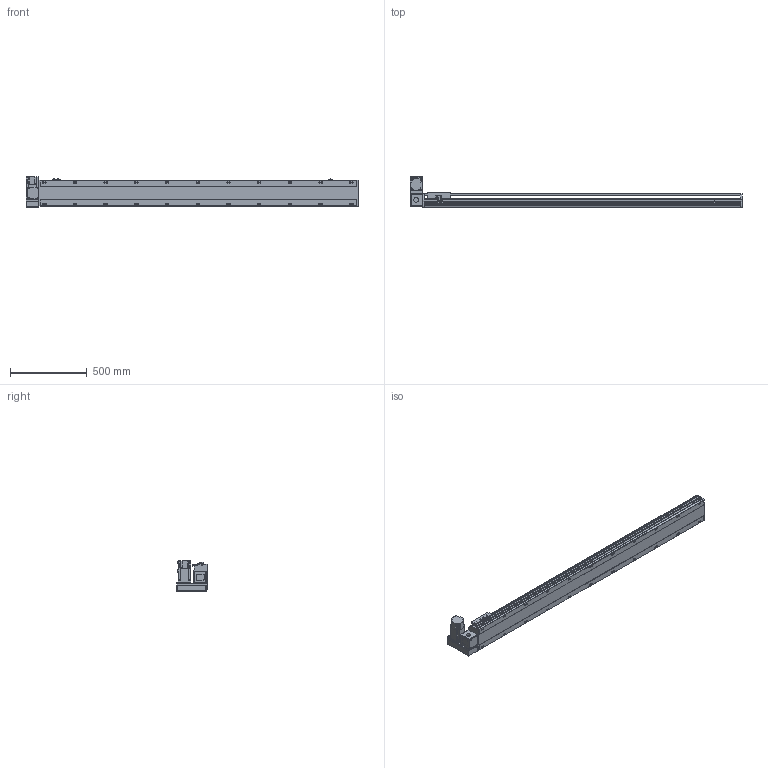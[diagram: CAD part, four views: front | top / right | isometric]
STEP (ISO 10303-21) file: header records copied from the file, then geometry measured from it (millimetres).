
FILE_DESCRIPTION( ( 'STEP AP214' ), '1' );
FILE_NAME( 'x:/temp/worker_4/temp/exporttempdir_2248_408_AvBjH/format_0/PBS170-P40-S1800-LU-T75-C1-N(0).stp', '2022-06-07T08:16:29', ( 'License CC BY-ND 4.0' ), ( 'CADENAS' ), ' ', 'PARTsolutions', ' ' );
FILE_SCHEMA( ( 'AUTOMOTIVE_DESIGN { 1 0 10303 214 1 1 1 1 }' ) );
Length unit declared in the file: millimetre
Products named in the file (7): PBS170-P40-S1800-LU-T75-C1-N(0); _PBS170-S1800()_body; _PBS170T-LU_motors; _T75-p1; _PBS170_sliser; _PBS170_plant; _PBS170_sensor
Assembly tree (8 placements, depth 2):
  PBS170-P40-S1800-LU-T75-C1-N(0)
    _PBS170-S1800()_body
    _PBS170T-LU_motors
    _T75-p1
    _PBS170_sliser
    _PBS170_plant
    _PBS170_sensor  x3
Bounding box: 2163 x 206 x 197.3 mm (x, y, z)
Volume: 16692905.6 mm3; surface area: 2127027.5 mm2
Topology: 8 solids, 8 shells, 1130 faces, 2995 edges, 1952 vertices
Faces by surface type: plane 705, cylinder 363, cone 52, sphere 8, torus 2
Full cylindrical faces by diameter (mm): 3.242 x4, 4 x2, 4.4 x4, 4.5 x6, 4.917 x4, 6 x9, 6.647 x30, 7 x2, 7.5 x4, 8 x8, 8.5 x22, 10 x4, 10.5 x22, 11 x2, 30 x2, 40 x1, 70 x1
Entity records: 41666 total; most frequent: CARTESIAN_POINT 6725, DIRECTION 5510, ORIENTED_EDGE 5208, EDGE_CURVE 2604, AXIS2_PLACEMENT_3D 1927, VERTEX_POINT 1802, LINE 1656, VECTOR 1656
